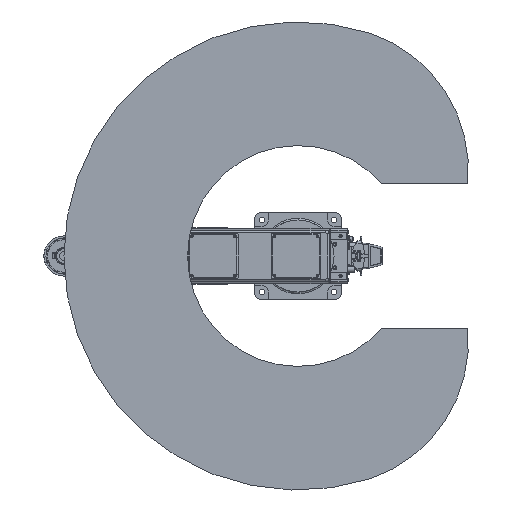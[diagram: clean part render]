
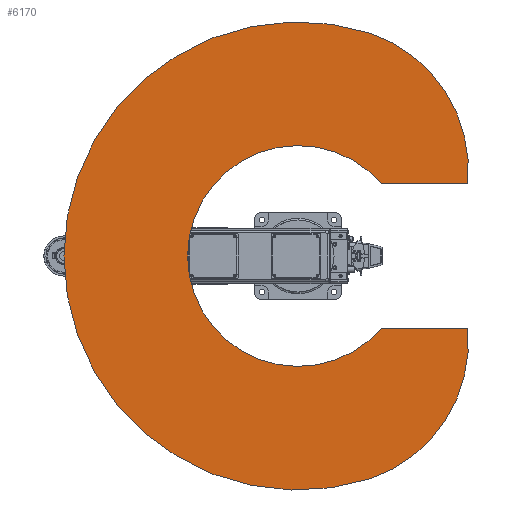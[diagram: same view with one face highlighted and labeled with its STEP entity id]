
A CAD part, front view. The second image highlights one B-rep face of the part: STEP entity #6170.
In plain terms, the highlighted planar face has unit normal (0, -1, 0).
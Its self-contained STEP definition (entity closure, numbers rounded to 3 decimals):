
#6170 = ADVANCED_FACE( '', ( #13847 ), #13848, .F. );
#13847 = FACE_OUTER_BOUND( '', #23256, .T. );
#13848 = PLANE( '', #23257 );
#23256 = EDGE_LOOP( '', ( #41126, #41127, #41128, #41129, #41130, #41131, #41132, #41133 ) );
#23257 = AXIS2_PLACEMENT_3D( '', #41134, #41135, #41136 );
#41126 = ORIENTED_EDGE( '', *, *, #49276, .F. );
#41127 = ORIENTED_EDGE( '', *, *, #52019, .F. );
#41128 = ORIENTED_EDGE( '', *, *, #51383, .F. );
#41129 = ORIENTED_EDGE( '', *, *, #53852, .T. );
#41130 = ORIENTED_EDGE( '', *, *, #48854, .F. );
#41131 = ORIENTED_EDGE( '', *, *, #51114, .F. );
#41132 = ORIENTED_EDGE( '', *, *, #51548, .F. );
#41133 = ORIENTED_EDGE( '', *, *, #54308, .F. );
#41134 = CARTESIAN_POINT( '', ( 0., 0., 0. ) );
#41135 = DIRECTION( '', ( 0., 1., 0. ) );
#41136 = DIRECTION( '', ( 0., 0., 1. ) );
#48854 = EDGE_CURVE( '', #57828, #57829, #57830, .T. );
#49276 = EDGE_CURVE( '', #58575, #58576, #58577, .T. );
#51114 = EDGE_CURVE( '', #61568, #57828, #61569, .T. );
#51383 = EDGE_CURVE( '', #61973, #61974, #61975, .T. );
#51548 = EDGE_CURVE( '', #62233, #61568, #62234, .T. );
#52019 = EDGE_CURVE( '', #61974, #58575, #62923, .T. );
#53852 = EDGE_CURVE( '', #61973, #57829, #65490, .T. );
#54308 = EDGE_CURVE( '', #58576, #62233, #66072, .T. );
#57828 = VERTEX_POINT( '', #70873 );
#57829 = VERTEX_POINT( '', #70874 );
#57830 = LINE( '', #70875, #70876 );
#58575 = VERTEX_POINT( '', #71988 );
#58576 = VERTEX_POINT( '', #71989 );
#58577 = LINE( '', #71990, #71991 );
#61568 = VERTEX_POINT( '', #77072 );
#61569 = CIRCLE( '', #77073, 400. );
#61973 = VERTEX_POINT( '', #77737 );
#61974 = VERTEX_POINT( '', #77738 );
#61975 = LINE( '', #77739, #77740 );
#62233 = VERTEX_POINT( '', #78258 );
#62234 = LINE( '', #78259, #78260 );
#62923 = CIRCLE( '', #79594, 400. );
#65490 = CIRCLE( '', #84028, 306.5 );
#66072 = CIRCLE( '', #84966, 650. );
#70873 = CARTESIAN_POINT( '', ( -200., 0., 471.177 ) );
#70874 = CARTESIAN_POINT( '', ( -200., 0., 232.255 ) );
#70875 = CARTESIAN_POINT( '', ( -200., 0., 471.177 ) );
#70876 = VECTOR( '', #88625, 1000. );
#71988 = CARTESIAN_POINT( '', ( 618.277, 0., 200.398 ) );
#71989 = CARTESIAN_POINT( '', ( 618.337, 0., 200.398 ) );
#71990 = CARTESIAN_POINT( '', ( 618.277, 0., 200.398 ) );
#71991 = VECTOR( '', #89280, 1000. );
#77072 = CARTESIAN_POINT( '', ( -618.276, 0., 200.398 ) );
#77073 = AXIS2_PLACEMENT_3D( '', #91586, #91587, #91588 );
#77737 = CARTESIAN_POINT( '', ( 200., 0., 232.255 ) );
#77738 = CARTESIAN_POINT( '', ( 200., 0., 471.18 ) );
#77739 = CARTESIAN_POINT( '', ( 200., 0., 232.255 ) );
#77740 = VECTOR( '', #91925, 1000. );
#78258 = CARTESIAN_POINT( '', ( -618.337, 0., 200.398 ) );
#78259 = CARTESIAN_POINT( '', ( -618.337, 0., 200.398 ) );
#78260 = VECTOR( '', #92109, 1000. );
#79594 = AXIS2_PLACEMENT_3D( '', #92642, #92643, #92644 );
#84028 = AXIS2_PLACEMENT_3D( '', #94676, #94677, #94678 );
#84966 = AXIS2_PLACEMENT_3D( '', #95127, #95128, #95129 );
#88625 = DIRECTION( '', ( 0., 0., -1. ) );
#89280 = DIRECTION( '', ( 1., 0., 0. ) );
#91586 = CARTESIAN_POINT( '', ( -239.076, 0., 73.09 ) );
#91587 = DIRECTION( '', ( 0., 1., 0. ) );
#91588 = DIRECTION( '', ( 1., 0., 0. ) );
#91925 = DIRECTION( '', ( 0., 0., 1. ) );
#92109 = DIRECTION( '', ( 1., 0., 0. ) );
#92642 = CARTESIAN_POINT( '', ( 239.076, 0., 73.093 ) );
#92643 = DIRECTION( '', ( 0., 1., 0. ) );
#92644 = DIRECTION( '', ( 1., 0., 0. ) );
#94676 = CARTESIAN_POINT( '', ( 0., 0., 0. ) );
#94677 = DIRECTION( '', ( 0., 1., 0. ) );
#94678 = DIRECTION( '', ( 1., 0., 0. ) );
#95127 = CARTESIAN_POINT( '', ( 0., 0., 0. ) );
#95128 = DIRECTION( '', ( 0., 1., 0. ) );
#95129 = DIRECTION( '', ( 1., 0., 0. ) );
